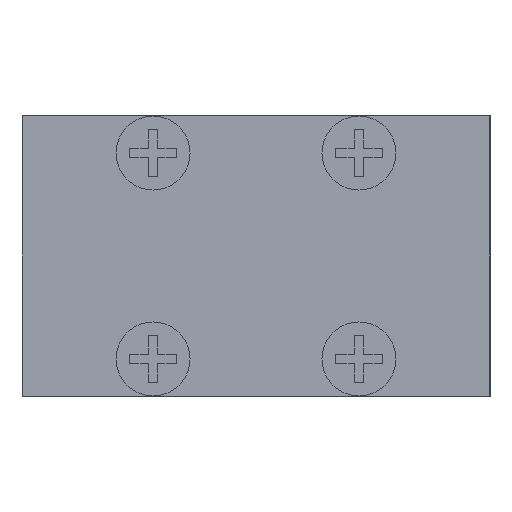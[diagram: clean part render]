
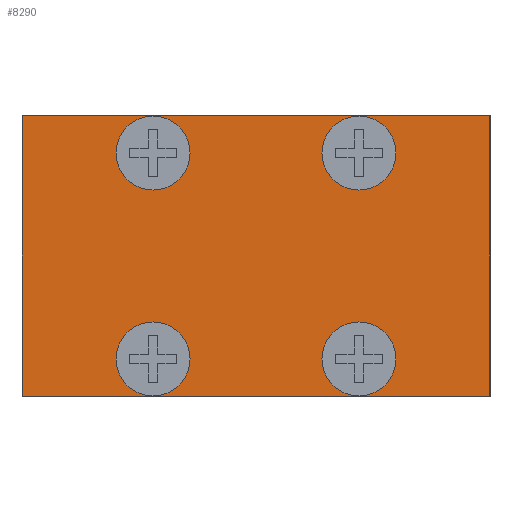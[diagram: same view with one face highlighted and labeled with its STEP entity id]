
A CAD part, left-side view. The second image highlights one B-rep face of the part: STEP entity #8290.
In plain terms, the highlighted planar face has unit normal (-1, 0, 0).
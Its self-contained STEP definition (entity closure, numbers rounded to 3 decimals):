
#201=CIRCLE('',#8564,3.95);
#203=CIRCLE('',#8581,3.95);
#205=CIRCLE('',#8598,3.95);
#207=CIRCLE('',#8615,3.95);
#597=ORIENTED_EDGE('',*,*,#1955,.T.);
#598=ORIENTED_EDGE('',*,*,#2031,.T.);
#599=ORIENTED_EDGE('',*,*,#2036,.T.);
#600=ORIENTED_EDGE('',*,*,#2037,.T.);
#601=ORIENTED_EDGE('',*,*,#2038,.T.);
#602=ORIENTED_EDGE('',*,*,#2039,.T.);
#603=ORIENTED_EDGE('',*,*,#1993,.T.);
#604=ORIENTED_EDGE('',*,*,#1917,.T.);
#1917=EDGE_CURVE('',#2838,#2838,#201,.T.);
#1955=EDGE_CURVE('',#2864,#2864,#203,.T.);
#1993=EDGE_CURVE('',#2890,#2890,#205,.T.);
#2031=EDGE_CURVE('',#2916,#2916,#207,.T.);
#2036=EDGE_CURVE('',#2921,#2922,#3611,.T.);
#2037=EDGE_CURVE('',#2922,#2923,#3612,.T.);
#2038=EDGE_CURVE('',#2923,#2924,#3613,.T.);
#2039=EDGE_CURVE('',#2924,#2921,#3614,.T.);
#2838=VERTEX_POINT('',#10488);
#2864=VERTEX_POINT('',#10567);
#2890=VERTEX_POINT('',#10646);
#2916=VERTEX_POINT('',#10725);
#2921=VERTEX_POINT('',#10740);
#2922=VERTEX_POINT('',#10741);
#2923=VERTEX_POINT('',#10743);
#2924=VERTEX_POINT('',#10745);
#3611=LINE('',#10739,#4360);
#3612=LINE('',#10742,#4361);
#3613=LINE('',#10744,#4362);
#3614=LINE('',#10746,#4363);
#4360=VECTOR('',#9218,1000.);
#4361=VECTOR('',#9219,1000.);
#4362=VECTOR('',#9220,1000.);
#4363=VECTOR('',#9221,1000.);
#5040=EDGE_LOOP('',(#597));
#5041=EDGE_LOOP('',(#598));
#5042=EDGE_LOOP('',(#599,#600,#601,#602));
#5043=EDGE_LOOP('',(#603));
#5044=EDGE_LOOP('',(#604));
#5466=FACE_BOUND('',#5040,.T.);
#5467=FACE_BOUND('',#5041,.T.);
#5468=FACE_BOUND('',#5042,.T.);
#5469=FACE_BOUND('',#5043,.T.);
#5470=FACE_BOUND('',#5044,.T.);
#5874=PLANE('',#8624);
#8290=ADVANCED_FACE('',(#5466,#5467,#5468,#5469,#5470),#5874,.T.);
#8564=AXIS2_PLACEMENT_3D('',#10487,#8988,#8989);
#8581=AXIS2_PLACEMENT_3D('',#10566,#9058,#9059);
#8598=AXIS2_PLACEMENT_3D('',#10645,#9128,#9129);
#8615=AXIS2_PLACEMENT_3D('',#10724,#9198,#9199);
#8624=AXIS2_PLACEMENT_3D('',#10738,#9216,#9217);
#8988=DIRECTION('',(1.,0.,0.));
#8989=DIRECTION('',(0.,0.,-1.));
#9058=DIRECTION('',(1.,0.,0.));
#9059=DIRECTION('',(0.,0.,-1.));
#9128=DIRECTION('',(1.,0.,0.));
#9129=DIRECTION('',(0.,0.,-1.));
#9198=DIRECTION('',(1.,0.,0.));
#9199=DIRECTION('',(0.,0.,-1.));
#9216=DIRECTION('',(-1.,0.,0.));
#9217=DIRECTION('',(0.,1.,0.));
#9218=DIRECTION('',(0.,0.,1.));
#9219=DIRECTION('',(0.,1.,0.));
#9220=DIRECTION('',(0.,0.,-1.));
#9221=DIRECTION('',(0.,-1.,0.));
#10487=CARTESIAN_POINT('',(-110.,11.,-11.));
#10488=CARTESIAN_POINT('',(-110.,11.,-14.95));
#10566=CARTESIAN_POINT('',(-110.,-11.,-11.));
#10567=CARTESIAN_POINT('',(-110.,-11.,-14.95));
#10645=CARTESIAN_POINT('',(-110.,11.,11.));
#10646=CARTESIAN_POINT('',(-110.,11.,7.05));
#10724=CARTESIAN_POINT('',(-110.,-11.,11.));
#10725=CARTESIAN_POINT('',(-110.,-11.,7.05));
#10738=CARTESIAN_POINT('',(-110.,-25.,15.));
#10739=CARTESIAN_POINT('',(-110.,-25.,-15.));
#10740=CARTESIAN_POINT('',(-110.,-25.,-15.));
#10741=CARTESIAN_POINT('',(-110.,-25.,15.));
#10742=CARTESIAN_POINT('',(-110.,-25.,15.));
#10743=CARTESIAN_POINT('',(-110.,25.,15.));
#10744=CARTESIAN_POINT('',(-110.,25.,15.));
#10745=CARTESIAN_POINT('',(-110.,25.,-15.));
#10746=CARTESIAN_POINT('',(-110.,25.,-15.));
